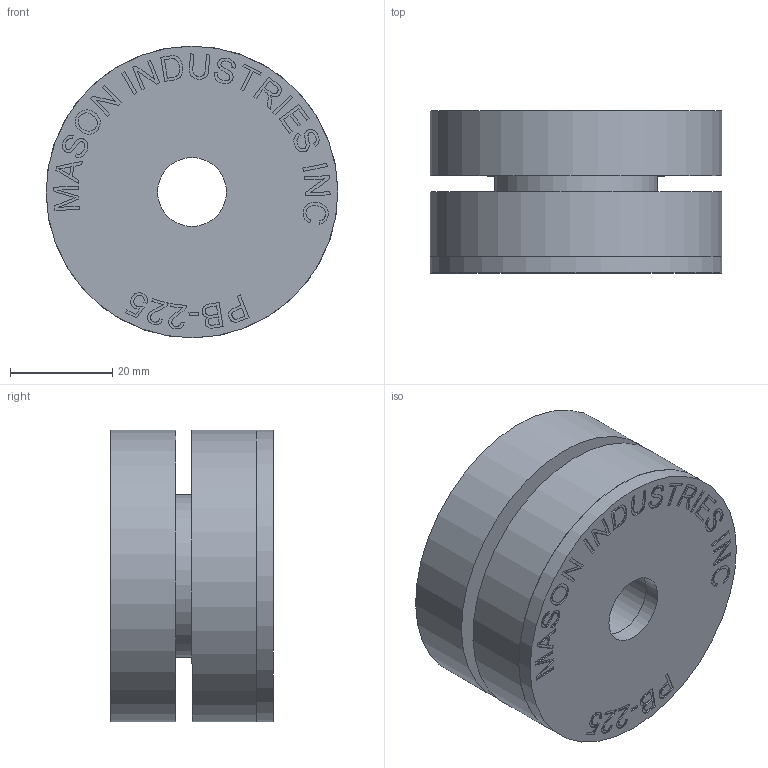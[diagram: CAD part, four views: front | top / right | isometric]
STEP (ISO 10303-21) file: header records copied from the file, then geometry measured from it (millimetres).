
FILE_DESCRIPTION((''),'2;1');
FILE_NAME('C:\REVIT SHARED FILES\STP\PB\PB-225.stp','2013-09-09T10:08:48',('rramoutar'),(''),'Autodesk Inventor 2012','Autodesk Inventor 2012','');
FILE_SCHEMA(('AUTOMOTIVE_DESIGN { 1 0 10303 214 1 1 1 1 }'));
Length unit declared in the file: inch
Products named in the file (6): A-23308-2 PB-225 ASSY; A-23308-2 PB-225 INNER TUBE; A-23308-2 PB-225 OUTER MOLDED WASHER; A-23308-2 PB-225 OUTER TUBE; A-23308-2 PB-225 STEEL WASHER; A-23308-2 PB-225 INNER MOLD
Assembly tree (6 placements, depth 2):
  A-23308-2 PB-225 ASSY
    A-23308-2 PB-225 INNER TUBE
    A-23308-2 PB-225 OUTER MOLDED WASHER  x2
    A-23308-2 PB-225 OUTER TUBE
    A-23308-2 PB-225 STEEL WASHER
    A-23308-2 PB-225 INNER MOLD
Bounding box: 57.15 x 31.75 x 57.15 mm (x, y, z)
Volume: 66264 mm3; surface area: 30018.1 mm2
Topology: 6 solids, 6 shells, 333 faces, 870 edges, 580 vertices
Faces by surface type: plane 196, bspline 125, cylinder 12
Full cylindrical faces by diameter (mm): 13.494 x1, 14.2 x1, 16 x2, 29 x2, 30.956 x2, 32 x1, 57.15 x3
Entity records: 11364 total; most frequent: CARTESIAN_POINT 3903, ORIENTED_EDGE 1708, DIRECTION 1056, EDGE_CURVE 854, VECTOR 584, LINE 584, VERTEX_POINT 576, EDGE_LOOP 380
